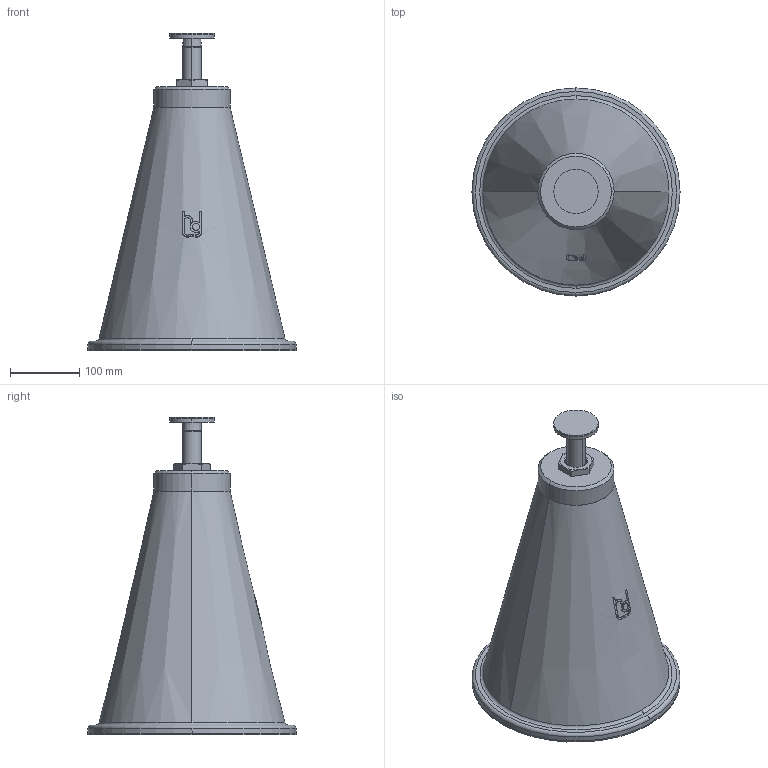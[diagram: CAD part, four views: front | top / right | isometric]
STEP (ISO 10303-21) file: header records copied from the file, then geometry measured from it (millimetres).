
FILE_DESCRIPTION(('STEP AP214'),'1');
FILE_NAME('RSRFB-05-V1.stp','2018-06-26T13:07:51',(' '),(' '),'Spatial InterOp 3D',' ',' ');
FILE_SCHEMA(('automotive_design'));
Length unit declared in the file: millimetre
Products named in the file (6): 1; 2; 3; 4; 5; 6
Bounding box: 300 x 300 x 458.12 mm (x, y, z)
Volume: 11578804.5 mm3; surface area: 524530.9 mm2
Topology: 6 solids, 7 shells, 112 faces, 261 edges, 167 vertices
Faces by surface type: plane 42, cylinder 37, cone 25, torus 8
Entity records: 4594 total; most frequent: CARTESIAN_POINT 993, DIRECTION 565, ORIENTED_EDGE 522, EDGE_CURVE 261, AXIS2_PLACEMENT_3D 227, VERTEX_POINT 167, EDGE_LOOP 120, STYLED_ITEM 118
